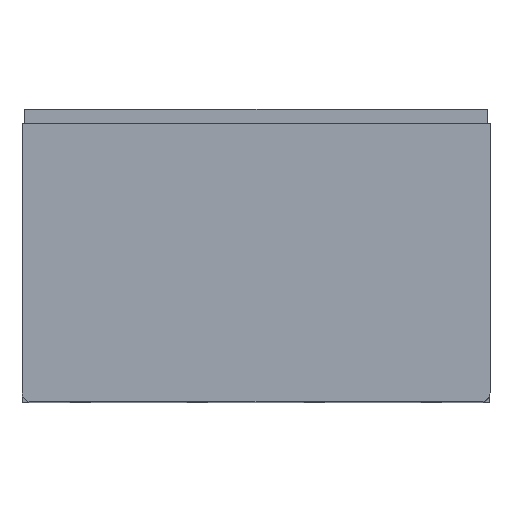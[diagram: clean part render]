
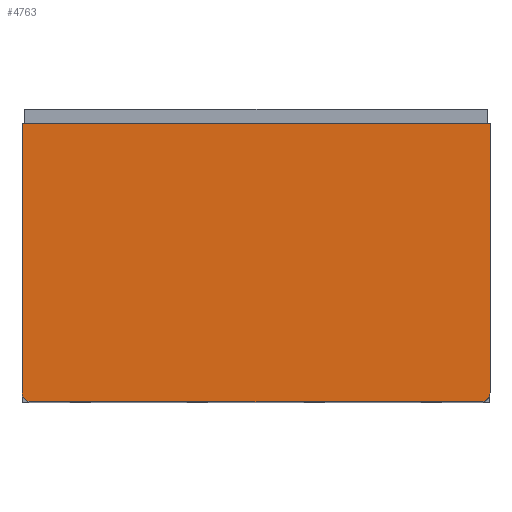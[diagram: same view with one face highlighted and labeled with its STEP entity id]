
A CAD part, top view. The second image highlights one B-rep face of the part: STEP entity #4763.
In plain terms, the highlighted planar face has unit normal (0, 0, 1) as drawn and (0, 0, -1) by its records, which use the part's own axes.
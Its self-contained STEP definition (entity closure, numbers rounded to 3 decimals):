
#4666=CARTESIAN_POINT('',(160.,92.,0.0));
#4667=VERTEX_POINT('',#4666);
#4674=CARTESIAN_POINT('',(157.,95.,0.0));
#4675=VERTEX_POINT('',#4674);
#4676=CARTESIAN_POINT('',(157.,92.,0.0));
#4677=DIRECTION('',(0.0,0.0,1.0));
#4678=DIRECTION('',(0.707,0.707,0.0));
#4679=AXIS2_PLACEMENT_3D('',#4676,#4677,#4678);
#4680=CIRCLE('',#4679,3.);
#4681=EDGE_CURVE('',#4667,#4675,#4680,.T.);
#4698=CARTESIAN_POINT('',(3.,95.,0.0));
#4699=VERTEX_POINT('',#4698);
#4700=CARTESIAN_POINT('',(157.,95.,0.0));
#4701=DIRECTION('',(-1.0,0.0,0.0));
#4702=VECTOR('',#4701,154.);
#4703=LINE('',#4700,#4702);
#4704=EDGE_CURVE('',#4675,#4699,#4703,.T.);
#4723=CARTESIAN_POINT('',(80.,47.5,0.0));
#4724=DIRECTION('',(0.0,0.0,1.0));
#4725=DIRECTION('',(1.0,0.0,0.0));
#4726=AXIS2_PLACEMENT_3D('',#4723,#4724,#4725);
#4727=PLANE('',#4726);
#4728=ORIENTED_EDGE('',*,*,#4681,.F.);
#4729=CARTESIAN_POINT('',(160.,0.0,0.0));
#4730=VERTEX_POINT('',#4729);
#4731=CARTESIAN_POINT('',(160.,0.0,0.0));
#4732=DIRECTION('',(0.0,1.0,0.0));
#4733=VECTOR('',#4732,92.);
#4734=LINE('',#4731,#4733);
#4735=EDGE_CURVE('',#4730,#4667,#4734,.T.);
#4736=ORIENTED_EDGE('',*,*,#4735,.F.);
#4737=CARTESIAN_POINT('',(0.0,0.0,0.0));
#4738=VERTEX_POINT('',#4737);
#4739=CARTESIAN_POINT('',(0.0,0.0,0.0));
#4740=DIRECTION('',(1.0,0.0,0.0));
#4741=VECTOR('',#4740,160.);
#4742=LINE('',#4739,#4741);
#4743=EDGE_CURVE('',#4738,#4730,#4742,.T.);
#4744=ORIENTED_EDGE('',*,*,#4743,.F.);
#4745=CARTESIAN_POINT('',(0.0,92.,0.0));
#4746=VERTEX_POINT('',#4745);
#4747=CARTESIAN_POINT('',(0.0,92.,0.0));
#4748=DIRECTION('',(0.0,-1.0,0.0));
#4749=VECTOR('',#4748,92.);
#4750=LINE('',#4747,#4749);
#4751=EDGE_CURVE('',#4746,#4738,#4750,.T.);
#4752=ORIENTED_EDGE('',*,*,#4751,.F.);
#4753=CARTESIAN_POINT('',(3.0,92.,0.0));
#4754=DIRECTION('',(0.0,0.0,1.0));
#4755=DIRECTION('',(-0.707,0.707,0.0));
#4756=AXIS2_PLACEMENT_3D('',#4753,#4754,#4755);
#4757=CIRCLE('',#4756,3.0);
#4758=EDGE_CURVE('',#4699,#4746,#4757,.T.);
#4759=ORIENTED_EDGE('',*,*,#4758,.F.);
#4760=ORIENTED_EDGE('',*,*,#4704,.F.);
#4761=EDGE_LOOP('',(#4728,#4736,#4744,#4752,#4759,#4760));
#4762=FACE_OUTER_BOUND('',#4761,.T.);
#4763=ADVANCED_FACE('',(#4762),#4727,.F.);
